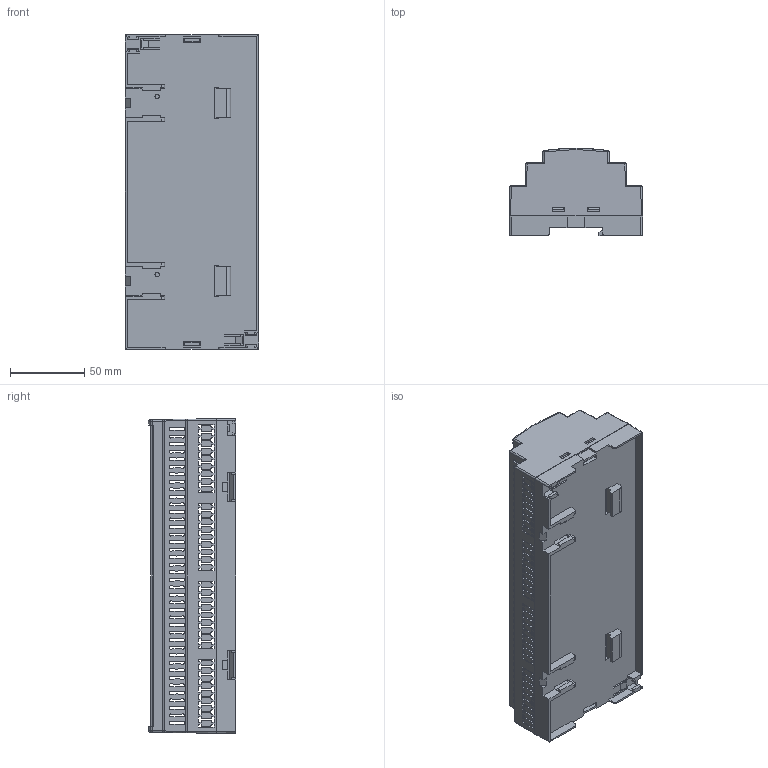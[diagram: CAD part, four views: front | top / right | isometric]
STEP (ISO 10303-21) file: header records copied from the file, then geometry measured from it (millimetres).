
FILE_DESCRIPTION (( 'STEP AP203' ), '1' );
FILE_NAME ('RT-212-D.STEP', '2025-08-14T13:59:54', ( '' ), ( '' ), 'SwSTEP 2.0', 'SolidWorks 2021', '' );
FILE_SCHEMA (( 'CONFIG_CONTROL_DESIGN' ));
Products named in the file (4): RT-212-D; RT-212-P-2_D; RT-212-P-1; RT-212-25_RT-212-25-M3
Assembly tree (3 placements, depth 2):
  RT-212-D
    RT-212-P-1
    RT-212-P-2_D
    RT-212-25_RT-212-25-M3
Bounding box: 90 x 58.9 x 212.1 mm (x, y, z)
Volume: 134395 mm3; surface area: 146383.3 mm2
Topology: 3 solids, 3 shells, 2459 faces, 7337 edges, 4876 vertices
Faces by surface type: plane 1332, cylinder 1076, bspline 23, cone 16, sphere 12
Entity records: 83235 total; most frequent: CARTESIAN_POINT 22519, ORIENTED_EDGE 14658, DIRECTION 10110, EDGE_CURVE 7329, LINE 5048, VECTOR 5048, VERTEX_POINT 4876, EDGE_LOOP 2821
